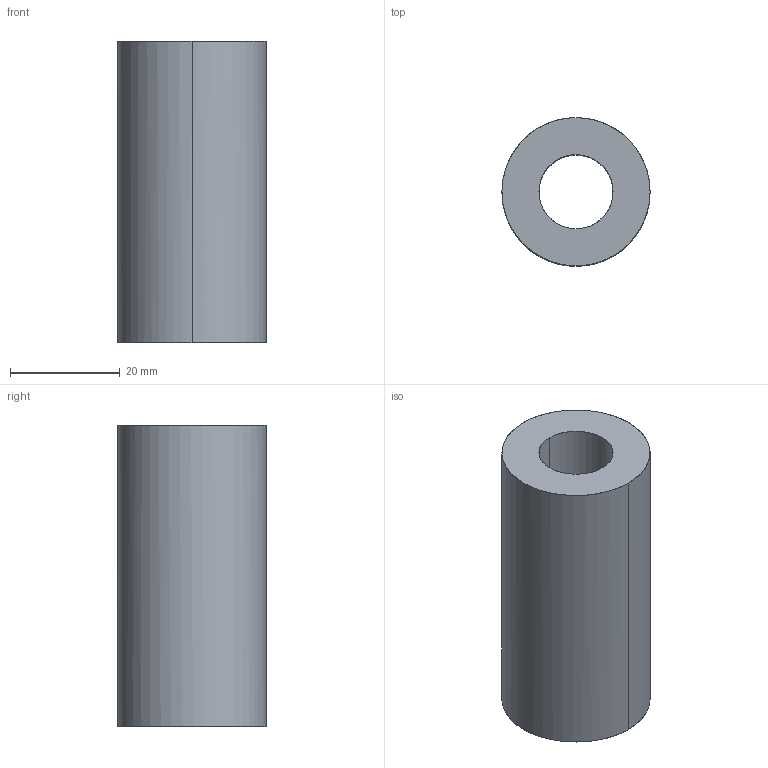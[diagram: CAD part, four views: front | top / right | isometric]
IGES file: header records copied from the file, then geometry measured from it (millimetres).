
Global section: file name: E:\UnigraphicsGraphicData\MISUMI_PRESS-PARTS\IGES\3d_swv27-55_00758_r00.igs; native system: NX V5.0; preprocessor: UGS NX IGES V5.0; author: MISUMI; date: 20110105.163300; units: millimetre
Bounding box: 27 x 27 x 55 mm (x, y, z)
Surface area: 7856 mm2 (no closed solid volume)
Topology: 0 solids, 0 shells, 6 faces, 64 edges, 64 vertices
Faces by surface type: bspline 6
